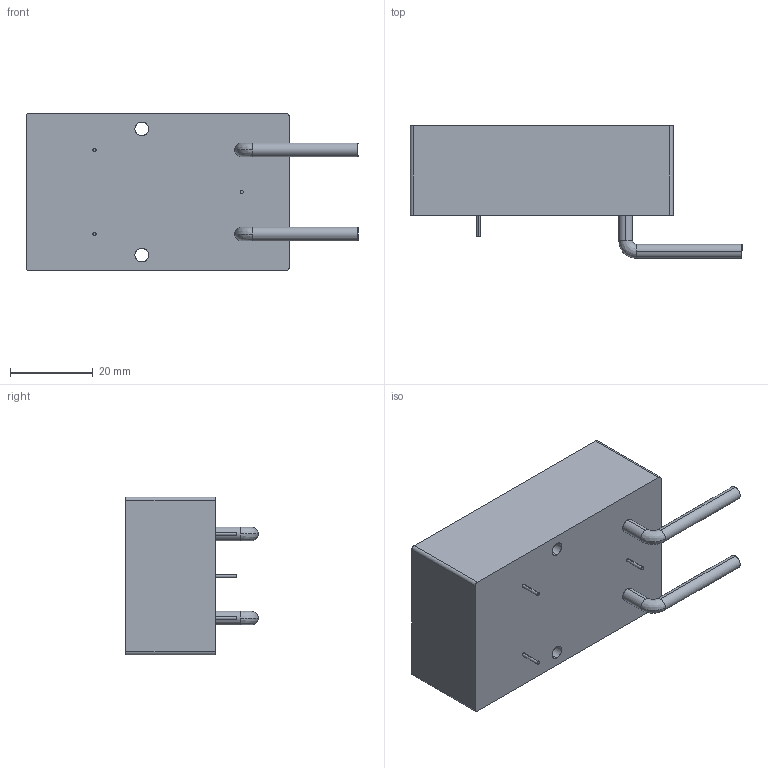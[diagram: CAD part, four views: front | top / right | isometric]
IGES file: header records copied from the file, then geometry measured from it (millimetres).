
Start section: SolidWorks IGES file using analytic representation for surfaces
Global section: file name: C:\Users\asmith\Desktop\~For Darol\Checked .igs Files\E-Series\E70-E80 wCT.IGS; native system: SolidWorks 2017; preprocessor: SolidWorks 2017; author: asmith; date: 171113.101720; units: inch
Bounding box: 80.14 x 31.93 x 38.1 mm (x, y, z)
Surface area: 10385.2 mm2 (no closed solid volume)
Topology: 0 solids, 0 shells, 37 faces, 528 edges, 528 vertices
Faces by surface type: revolution 22, bspline 15
